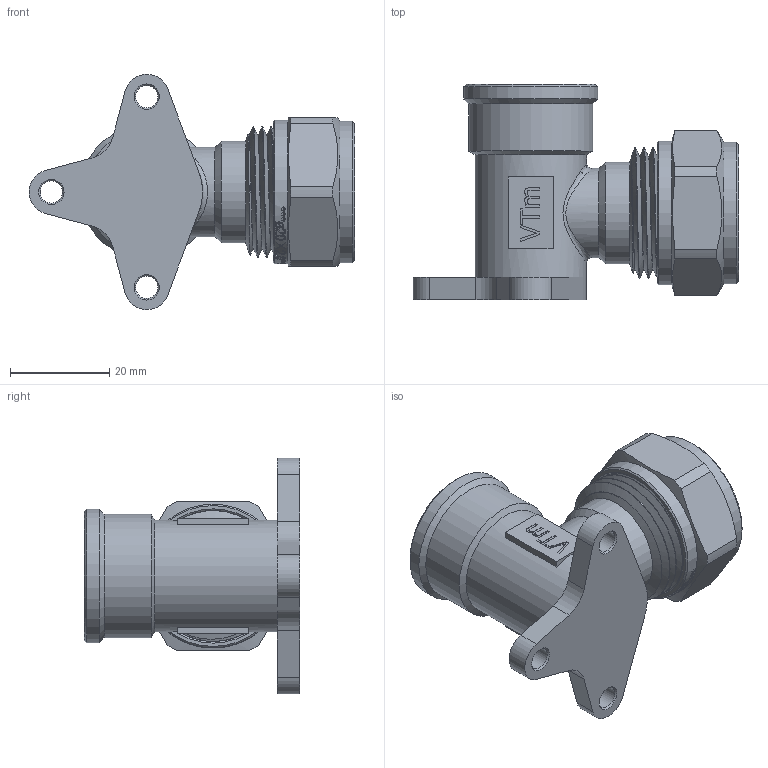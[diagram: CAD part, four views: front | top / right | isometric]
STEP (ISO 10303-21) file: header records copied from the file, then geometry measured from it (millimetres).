
FILE_DESCRIPTION(/* description */ (''),/* implementation_level */ '2;1');
FILE_NAME(/* name */ 'F:\Артём\00000\Работа удаленка\Обжимные фитинги\VTm.354\STP\VTm.354.N.002004.stp',/* time_stamp */ '2020-08-11T10:25:53+03:00',/* author */ ('almis'),/* organization */ (''),/* preprocessor_version */ 'ST-DEVELOPER v18',/* originating_system */ 'Autodesk Inventor 2020',/* authorisation */ '');
FILE_SCHEMA (('AUTOMOTIVE_DESIGN { 1 0 10303 214 3 1 1 }'));
Length unit declared in the file: millimetre
Products named in the file (1): VTm.341.N.202020
Bounding box: 65.71 x 43.5 x 47.49 mm (x, y, z)
Volume: 21171.2 mm3; surface area: 17428.5 mm2
Topology: 1 solids, 2 shells, 757 faces, 2112 edges, 1419 vertices
Faces by surface type: bspline 371, plane 237, cylinder 101, cone 25, torus 23
Full cylindrical faces by diameter (mm): 4.5 x3, 11.5 x1, 13.4 x2, 15.75 x4, 18 x1, 18.6 x6, 19.986 x4, 20.2 x1, 20.5 x1, 20.728 x5, 21 x1, 22.2 x5, 22.5 x1, 22.8 x3, 23.201 x1, 24.2 x1, 25 x1, 26.4 x2, 27 x1, 28.5 x1, 29 x1
Entity records: 32812 total; most frequent: CARTESIAN_POINT 15626, ORIENTED_EDGE 4224, DIRECTION 2419, EDGE_CURVE 2112, VERTEX_POINT 1420, LINE 969, VECTOR 969, EDGE_LOOP 828
